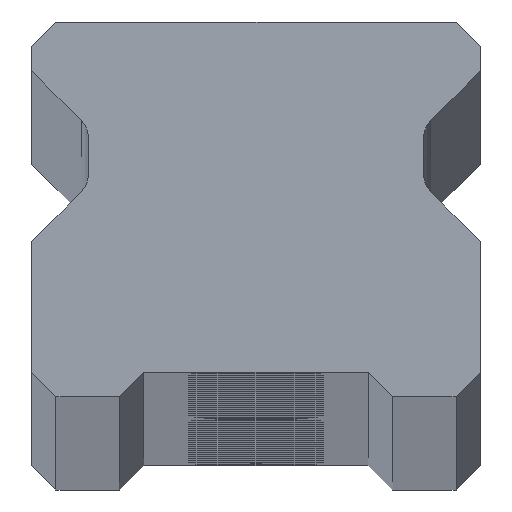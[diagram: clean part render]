
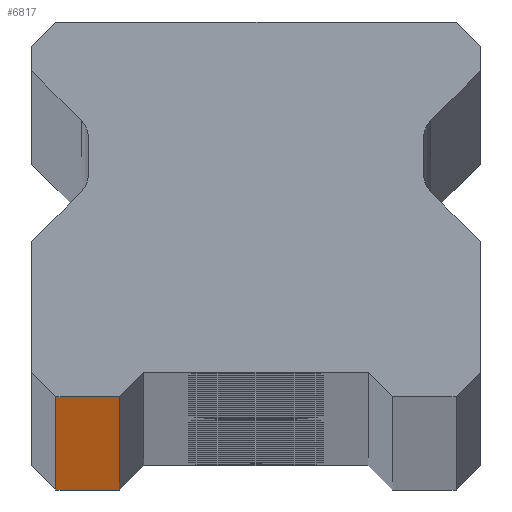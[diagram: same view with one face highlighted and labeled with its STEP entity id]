
A CAD part, top view. The second image highlights one B-rep face of the part: STEP entity #6817.
In plain terms, the highlighted planar face has unit normal (0, -1, 0).
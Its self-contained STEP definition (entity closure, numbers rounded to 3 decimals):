
#39 = CARTESIAN_POINT ( 'NONE',  ( -10.25, 0., 1370. ) ) ;
#174 = CARTESIAN_POINT ( 'NONE',  ( 11.5, 0., -1370. ) ) ;
#488 = VERTEX_POINT ( 'NONE', #7720 ) ;
#614 = ORIENTED_EDGE ( 'NONE', *, *, #4062, .T. ) ;
#935 = DIRECTION ( 'NONE',  ( 1., 0., 0. ) ) ;
#1171 = VERTEX_POINT ( 'NONE', #4537 ) ;
#1204 = CARTESIAN_POINT ( 'NONE',  ( 11.5, 0., 1370. ) ) ;
#1398 = EDGE_CURVE ( 'NONE', #3083, #488, #7338, .T. ) ;
#1733 = VECTOR ( 'NONE', #2445, 1000. ) ;
#1966 = CARTESIAN_POINT ( 'NONE',  ( -7., 0., -1370. ) ) ;
#2411 = LINE ( 'NONE', #4356, #4633 ) ;
#2445 = DIRECTION ( 'NONE',  ( 0., 0., -1. ) ) ;
#2462 = DIRECTION ( 'NONE',  ( 0., 1., 0. ) ) ;
#2517 = PLANE ( 'NONE',  #4326 ) ;
#3025 = CARTESIAN_POINT ( 'NONE',  ( 11.5, 0., 1370. ) ) ;
#3083 = VERTEX_POINT ( 'NONE', #39 ) ;
#3101 = DIRECTION ( 'NONE',  ( 1., 0., 0. ) ) ;
#3316 = EDGE_LOOP ( 'NONE', ( #614, #7209, #5397, #7367 ) ) ;
#3985 = VERTEX_POINT ( 'NONE', #1966 ) ;
#4062 = EDGE_CURVE ( 'NONE', #1171, #3985, #7294, .T. ) ;
#4093 = CARTESIAN_POINT ( 'NONE',  ( -10.25, 0., 1370. ) ) ;
#4160 = LINE ( 'NONE', #4093, #1733 ) ;
#4326 = AXIS2_PLACEMENT_3D ( 'NONE', #3025, #2462, #6106 ) ;
#4356 = CARTESIAN_POINT ( 'NONE',  ( -7., 0., -1370. ) ) ;
#4537 = CARTESIAN_POINT ( 'NONE',  ( -10.25, 0., -1370. ) ) ;
#4584 = VECTOR ( 'NONE', #935, 1000. ) ;
#4633 = VECTOR ( 'NONE', #4975, 1000. ) ;
#4975 = DIRECTION ( 'NONE',  ( 0., 0., 1. ) ) ;
#5397 = ORIENTED_EDGE ( 'NONE', *, *, #1398, .F. ) ;
#5681 = VECTOR ( 'NONE', #3101, 1000. ) ;
#6106 = DIRECTION ( 'NONE',  ( -1., 0., 0. ) ) ;
#6539 = EDGE_CURVE ( 'NONE', #3083, #1171, #4160, .T. ) ;
#6817 = ADVANCED_FACE ( 'NONE', ( #7820 ), #2517, .F. ) ;
#6848 = EDGE_CURVE ( 'NONE', #3985, #488, #2411, .T. ) ;
#7209 = ORIENTED_EDGE ( 'NONE', *, *, #6848, .T. ) ;
#7294 = LINE ( 'NONE', #174, #4584 ) ;
#7338 = LINE ( 'NONE', #1204, #5681 ) ;
#7367 = ORIENTED_EDGE ( 'NONE', *, *, #6539, .T. ) ;
#7720 = CARTESIAN_POINT ( 'NONE',  ( -7., 0., 1370. ) ) ;
#7820 = FACE_OUTER_BOUND ( 'NONE', #3316, .T. ) ;
